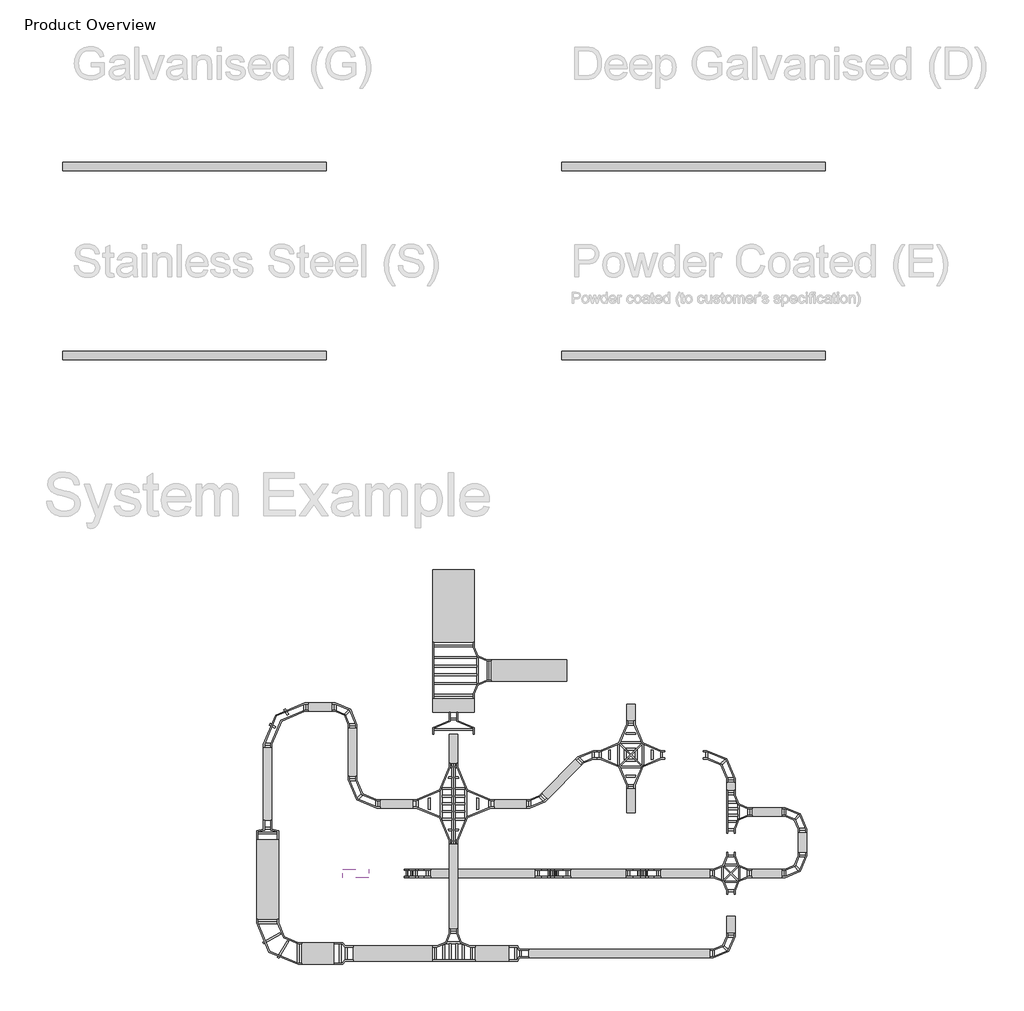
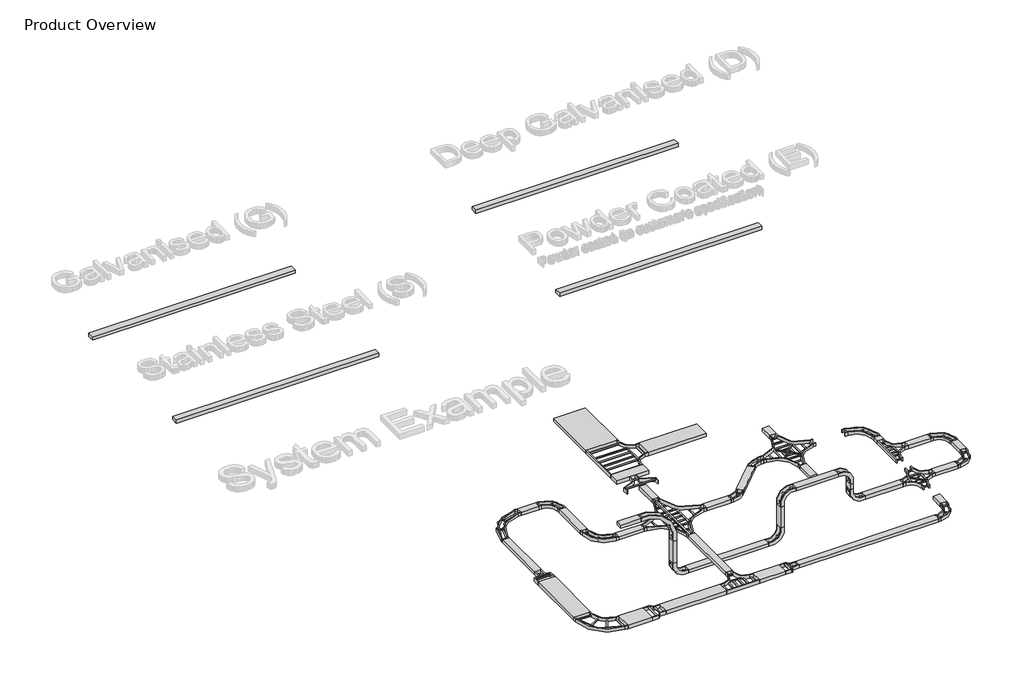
# One storey, part 1 of 12: 34 cable carrier segments, 26 cable carrier fittings.
"""IFC4 building model written with IfcOpenShell, lengths in millimetres."""

from ifc_helpers import new_model, si_unit, frame, origin, place, context, project, spatial, polyline, outline, extrude, transform, mapped, element, save
from components import cable_carrier_fitting_7f253313, cable_carrier_fitting_f78025db, cable_carrier_fitting_8960ecd3, cable_carrier_fitting_87adf0dc, cable_carrier_fitting_d395c870, cable_carrier_fitting_b2eab60c, cable_carrier_fitting_bc066015, cable_carrier_fitting_e394ca08, cable_carrier_fitting_f09c606a, cable_carrier_fitting_a2381116, cable_carrier_fitting_abfec594, cable_carrier_fitting_8f1683ba, cable_carrier_fitting_1cec5583, cable_carrier_fitting_96e0057e, cable_carrier_fitting_72d6f9a9, cable_carrier_fitting_0bd57088, cable_carrier_fitting_03ec1c38, cable_carrier_fitting_3448f65d

model = new_model("IFC4")

# Units and contexts
model_context = context("Model", 3, world=origin())
ifc_project = project(units=[si_unit("LENGTHUNIT", "METRE", prefix="MILLI")], contexts=[model_context])

# Site, building, storey
site = spatial("IfcSite", under=ifc_project)
building = spatial("IfcBuilding", under=site)
storey = spatial("IfcBuildingStorey", under=building, Name="Product Overview", Elevation=0.0)

# Cable carrier fittings
placement = place(None, origin())
cable_carrier_fitting_shape = cable_carrier_fitting_7f253313(model_context)
element("IfcCableCarrierFitting", 1, ObjectType="Legrand_CableLadder_Swifts_Topaz_Cross2Piece-750R-13 : Hot Dip Galvanised (after manufacture)", at=placement, inside=storey, context=model_context, shape_type="MappedRepresentation", body=[
    mapped(cable_carrier_fitting_shape, transform((-7597.3505224, -29354.8610525, 0.0), x_axis=(0.0, 1.0, 0.0), y_axis=(-1.0, 0.0, 0.0), z_axis=(0.0, 0.0, 1.0))),
])
cable_carrier_fitting_2_shape = cable_carrier_fitting_f78025db(model_context)
element("IfcCableCarrierFitting", 2, ObjectType="Legrand_CableLadder_Swifts_Topaz_Cross-300R-13 : Hot Dip Galvanised (after manufacture)", at=placement, inside=storey, context=model_context, shape_type="MappedRepresentation", body=[
    mapped(cable_carrier_fitting_2_shape, transform((-1280.5502597, -30939.3033827, 0.0), x_axis=(1.0, 0.0, 0.0), y_axis=(0.0, 1.0, 0.0), z_axis=(0.0, 0.0, 1.0))),
])
cable_carrier_fitting_3_shape = cable_carrier_fitting_8960ecd3(model_context)
element("IfcCableCarrierFitting", 3, ObjectType="Legrand_CableLadder_Swifts_Topaz_FlatBend-13 : Hot Dip Galvanised (after manufacture)", at=placement, inside=storey, context=model_context, shape_type="MappedRepresentation", body=[
    mapped(cable_carrier_fitting_3_shape, transform((-4580.5502597, -28240.2496609, 0.0), x_axis=(-1.0, 0.0, 0.0), y_axis=(0.0, -1.0, 0.0), z_axis=(0.0, 0.0, 1.0))),
])
element("IfcCableCarrierFitting", 4, ObjectType="Legrand_CableLadder_Swifts_Topaz_FlatBend-13 : Hot Dip Galvanised (after manufacture)", at=placement, inside=storey, context=model_context, shape_type="MappedRepresentation", body=[
    mapped(cable_carrier_fitting_3_shape, transform((-5695.1616513, -29354.8610525, 0.0), x_axis=(1.0, 0.0, 0.0), y_axis=(0.0, 1.0, 0.0), z_axis=(0.0, 0.0, 1.0))),
])
cable_carrier_fitting_4_shape = cable_carrier_fitting_87adf0dc(model_context)
element("IfcCableCarrierFitting", 5, ObjectType="Legrand_CableLadder_Swifts_Topaz_FlatBend-13 : Hot Dip Galvanised (after manufacture)", at=placement, inside=storey, context=model_context, shape_type="MappedRepresentation", body=[
    mapped(cable_carrier_fitting_4_shape, transform((-1280.5502597, -28240.2496609, 0.0), x_axis=(0.0, 1.0, 0.0), y_axis=(-1.0, 0.0, 0.0), z_axis=(0.0, 0.0, 1.0))),
])
element("IfcCableCarrierFitting", 6, ObjectType="Legrand_CableLadder_Swifts_Topaz_FlatBend-13 : Hot Dip Galvanised (after manufacture)", at=placement, inside=storey, context=model_context, shape_type="MappedRepresentation", body=[
    mapped(cable_carrier_fitting_4_shape, transform((-9895.1616513, -29354.8610525, 0.0), x_axis=(0.0, -1.0, 0.0), y_axis=(1.0, 0.0, 0.0), z_axis=(0.0, 0.0, 1.0))),
])
cable_carrier_fitting_5_shape = cable_carrier_fitting_d395c870(model_context)
element("IfcCableCarrierFitting", 7, ObjectType="Legrand_CableLadder_Swifts_Topaz_FlatBend-13 : Hot Dip Galvanised (after manufacture)", at=placement, inside=storey, context=model_context, shape_type="MappedRepresentation", body=[
    mapped(cable_carrier_fitting_5_shape, transform((350.9242707, -30939.3033827, 0.0), x_axis=(1.0, 0.0, 0.0), y_axis=(0.0, 1.0, 0.0), z_axis=(0.0, 0.0, 1.0))),
])
element("IfcCableCarrierFitting", 8, ObjectType="Legrand_CableLadder_Swifts_Topaz_FlatBend-13 : Hot Dip Galvanised (after manufacture)", at=placement, inside=storey, context=model_context, shape_type="MappedRepresentation", body=[
    mapped(cable_carrier_fitting_5_shape, transform((350.9242707, -29539.3033827, 0.0), x_axis=(0.0, 1.0, 0.0), y_axis=(-1.0, 0.0, 0.0), z_axis=(0.0, 0.0, 1.0))),
])
element("IfcCableCarrierFitting", 9, ObjectType="Legrand_CableLadder_Swifts_Topaz_FlatBend-13 : Hot Dip Galvanised (after manufacture)", at=placement, inside=storey, context=model_context, shape_type="MappedRepresentation", body=[
    mapped(cable_carrier_fitting_5_shape, transform((-9895.1616513, -27154.8610525, 0.0), x_axis=(0.0, 1.0, 0.0), y_axis=(-1.0, 0.0, 0.0), z_axis=(0.0, 0.0, 1.0))),
])
element("IfcCableCarrierFitting", 10, ObjectType="Legrand_CableLadder_Swifts_Topaz_FlatBend-13 : Hot Dip Galvanised (after manufacture)", at=placement, inside=storey, context=model_context, shape_type="MappedRepresentation", body=[
    mapped(cable_carrier_fitting_5_shape, transform((-1280.5502597, -32765.0889012, 0.0), x_axis=(1.0, 0.0, 0.0), y_axis=(0.0, 1.0, 0.0), z_axis=(0.0, 0.0, 1.0))),
])
cable_carrier_fitting_6_shape = cable_carrier_fitting_b2eab60c(model_context)
element("IfcCableCarrierFitting", 11, ObjectType="Legrand_CableLadder_Swifts_Topaz_FlatBend-13 : Hot Dip Galvanised (after manufacture)", at=placement, inside=storey, context=model_context, shape_type="MappedRepresentation", body=[
    mapped(cable_carrier_fitting_6_shape, transform((-11830.5502597, -27154.8610525, 0.0), x_axis=(-1.0, 0.0, 0.0), y_axis=(0.0, -1.0, 0.0), z_axis=(0.0, 0.0, 1.0))),
])
cable_carrier_fitting_7_shape = cable_carrier_fitting_bc066015(model_context)
element("IfcCableCarrierFitting", 12, ObjectType="Legrand_CableLadder_Swifts_Topaz_FlatBend-13 : Hot Dip Galvanised (after manufacture)", at=placement, inside=storey, context=model_context, shape_type="MappedRepresentation", body=[
    mapped(cable_carrier_fitting_7_shape, transform((-11830.5502597, -32765.0889012, 0.0), x_axis=(0.0, -1.0, 0.0), y_axis=(1.0, 0.0, 0.0), z_axis=(0.0, 0.0, 1.0))),
])
cable_carrier_fitting_8_shape = cable_carrier_fitting_e394ca08(model_context)
element("IfcCableCarrierFitting", 13, ObjectType="Legrand_CableLadder_Swifts_Topaz_InsideRiser-13 : Hot Dip Galvanised (after manufacture)", at=placement, inside=storey, context=model_context, shape_type="MappedRepresentation", body=[
    mapped(cable_carrier_fitting_8_shape, transform((-3278.0757293, -30939.3033827, 0.0), x_axis=(-1.0, 0.0, 0.0), y_axis=(0.0, 0.0, 1.0), z_axis=(0.0, 1.0, 0.0))),
])
element("IfcCableCarrierFitting", 14, ObjectType="Legrand_CableLadder_Swifts_Topaz_InsideRiser-13 : Hot Dip Galvanised (after manufacture)", at=placement, inside=storey, context=model_context, shape_type="MappedRepresentation", body=[
    mapped(cable_carrier_fitting_8_shape, transform((-5338.0757293, -30939.3033827, -480.0), x_axis=(0.0, 0.0, -1.0), y_axis=(-1.0, 0.0, 0.0), z_axis=(0.0, 1.0, 0.0))),
])
element("IfcCableCarrierFitting", 15, ObjectType="Legrand_CableLadder_Swifts_Topaz_InsideRiser-13 : Hot Dip Galvanised (after manufacture)", at=placement, inside=storey, context=model_context, shape_type="MappedRepresentation", body=[
    mapped(cable_carrier_fitting_8_shape, transform((-8523.5757293, -30939.3033827, -480.0), x_axis=(-1.0, 0.0, 0.0), y_axis=(0.0, 0.0, 1.0), z_axis=(0.0, 1.0, 0.0))),
])
cable_carrier_fitting_9_shape = cable_carrier_fitting_f09c606a(model_context)
element("IfcCableCarrierFitting", 16, ObjectType="Legrand_CableLadder_Swifts_Topaz_OutsideRiser-13 : Hot Dip Galvanised (after manufacture)", at=placement, inside=storey, context=model_context, shape_type="MappedRepresentation", body=[
    mapped(cable_carrier_fitting_9_shape, transform((-3278.0757293, -30939.3033827, 980.0), x_axis=(0.0, 0.0, 1.0), y_axis=(-1.0, 0.0, 0.0), z_axis=(0.0, -1.0, 0.0))),
])
element("IfcCableCarrierFitting", 17, ObjectType="Legrand_CableLadder_Swifts_Topaz_OutsideRiser-13 : Hot Dip Galvanised (after manufacture)", at=placement, inside=storey, context=model_context, shape_type="MappedRepresentation", body=[
    mapped(cable_carrier_fitting_9_shape, transform((-5338.0757293, -30939.3033827, 980.0), x_axis=(-1.0, 0.0, 0.0), y_axis=(0.0, 0.0, -1.0), z_axis=(0.0, -1.0, 0.0))),
])
cable_carrier_fitting_10_shape = cable_carrier_fitting_a2381116(model_context)
element("IfcCableCarrierFitting", 18, ObjectType="Legrand_CableLadder_Swifts_Topaz_Reducer-13 : Straight - Hot Dip Galvanised (after manufacture)", at=placement, inside=storey, context=model_context, shape_type="MappedRepresentation", body=[
    mapped(cable_carrier_fitting_10_shape, transform((-6112.6005224, -32765.0889012, 0.0), x_axis=(-1.0, 0.0, 0.0), y_axis=(0.0, 1.0, 0.0), z_axis=(0.0, 0.0, -1.0))),
])
cable_carrier_fitting_11_shape = cable_carrier_fitting_abfec594(model_context)
element("IfcCableCarrierFitting", 19, ObjectType="Legrand_CableLadder_Swifts_Topaz_Reducer-13 : Straight - Hot Dip Galvanised (after manufacture)", at=placement, inside=storey, context=model_context, shape_type="MappedRepresentation", body=[
    mapped(cable_carrier_fitting_11_shape, transform((-10105.5502597, -32765.0889012, 0.0), x_axis=(-1.0, 0.0, 0.0), y_axis=(0.0, 1.0, 0.0), z_axis=(0.0, 0.0, -1.0))),
])
cable_carrier_fitting_12_shape = cable_carrier_fitting_8f1683ba(model_context)
element("IfcCableCarrierFitting", 20, ObjectType="Legrand_CableLadder_Swifts_Topaz_Reducer-13 : Straight - Hot Dip Galvanised (after manufacture)", at=placement, inside=storey, context=model_context, shape_type="MappedRepresentation", body=[
    mapped(cable_carrier_fitting_12_shape, transform((-11830.5502597, -29950.8503409, 0.0), x_axis=(0.0, -1.0, 0.0), y_axis=(-1.0, 0.0, 0.0), z_axis=(0.0, 0.0, -1.0))),
])
cable_carrier_fitting_13_shape = cable_carrier_fitting_1cec5583(model_context)
element("IfcCableCarrierFitting", 21, ObjectType="Legrand_CableLadder_Swifts_Topaz_Tee-300R-13 : Hot Dip Galvanised (after manufacture)", at=placement, inside=storey, context=model_context, shape_type="MappedRepresentation", body=[
    mapped(cable_carrier_fitting_13_shape, transform((-7597.3505224, -26319.2387618, 0.0), x_axis=(0.0, 1.0, 0.0), y_axis=(-1.0, 0.0, 0.0), z_axis=(0.0, 0.0, 1.0))),
])
cable_carrier_fitting_14_shape = cable_carrier_fitting_96e0057e(model_context)
element("IfcCableCarrierFitting", 22, ObjectType="Legrand_CableLadder_Swifts_Topaz_Tee-300R-13 : Hot Dip Galvanised (after manufacture)", at=placement, inside=storey, context=model_context, shape_type="MappedRepresentation", body=[
    mapped(cable_carrier_fitting_14_shape, transform((-7597.3505224, -32765.0889012, 0.0), x_axis=(-1.0, 0.0, 0.0), y_axis=(0.0, -1.0, 0.0), z_axis=(0.0, 0.0, 1.0))),
])
cable_carrier_fitting_15_shape = cable_carrier_fitting_72d6f9a9(model_context)
element("IfcCableCarrierFitting", 23, ObjectType="Legrand_CableLadder_Swifts_Topaz_OutsideRiser-13 : Hot Dip Galvanised (after manufacture)", at=placement, inside=storey, context=model_context, shape_type="MappedRepresentation", body=[
    mapped(cable_carrier_fitting_15_shape, transform((-8523.5757293, -30939.3033827, 1620.0), x_axis=(0.0, 0.0, 1.0), y_axis=(-1.0, 0.0, 0.0), z_axis=(0.0, -1.0, 0.0))),
])
cable_carrier_fitting_16_shape = cable_carrier_fitting_0bd57088(model_context)
element("IfcCableCarrierFitting", 24, ObjectType="Legrand_CableLadder_Swifts_Topaz_Tee-300R-13 : Hot Dip Galvanised (after manufacture)", at=placement, inside=storey, context=model_context, shape_type="MappedRepresentation", body=[
    mapped(cable_carrier_fitting_16_shape, transform((-1280.5502597, -29539.3033827, 0.0), x_axis=(0.0, 1.0, 0.0), y_axis=(-1.0, 0.0, 0.0), z_axis=(0.0, 0.0, 1.0))),
])
cable_carrier_fitting_17_shape = cable_carrier_fitting_03ec1c38(model_context)
element("IfcCableCarrierFitting", 25, ObjectType="Legrand_CableLadder_Swifts_Topaz_Cross-600R-13 : Hot Dip Galvanised (after manufacture)", at=placement, inside=storey, context=model_context, shape_type="MappedRepresentation", body=[
    mapped(cable_carrier_fitting_17_shape, transform((-3559.1074754, -28240.2496609, 0.0), x_axis=(0.0, 1.0, 0.0), y_axis=(-1.0, 0.0, 0.0), z_axis=(0.0, 0.0, 1.0))),
])
cable_carrier_fitting_18_shape = cable_carrier_fitting_3448f65d(model_context)
element("IfcCableCarrierFitting", 26, ObjectType="Legrand_CableLadder_Swifts_Topaz_Reducer-13 : Straight - Hot Dip Galvanised (after manufacture)", at=placement, inside=storey, context=model_context, shape_type="MappedRepresentation", body=[
    mapped(cable_carrier_fitting_18_shape, transform((-7597.3505224, -27519.2387618, 0.0), x_axis=(0.0, 1.0, 0.0), y_axis=(1.0, 0.0, 0.0), z_axis=(0.0, 0.0, -1.0))),
])

# Cable carrier segments
element("IfcCableCarrierSegment", 27, ObjectType="Swifts Cable Ladder - Topaz - Hot Dip Galvanised (after manufacture)", at=placement, inside=storey, context=model_context, shape_type="SweptSolid", body=[
    extrude(outline(polyline([(-16496.1994897, -14941.5700717), (-16496.1994897, -14747.5700717), (-10496.1994897, -14747.5700717), (-10496.1994897, -14941.5700717), (-16496.1994897, -14941.5700717)])), frame((0.0, 0.0, -50.0), z_axis=(0.0, 0.0, 1.0), x_axis=(1.0, 0.0, 0.0)), (0.0, 0.0, 1.0), 100.0),
])
element("IfcCableCarrierSegment", 28, ObjectType="Swifts Cable Ladder - Topaz - Stainless Steel", at=placement, inside=storey, context=model_context, shape_type="SweptSolid", body=[
    extrude(outline(polyline([(-16496.1994897, -19241.5700717), (-16496.1994897, -19047.5700717), (-10496.1994897, -19047.5700717), (-10496.1994897, -19241.5700717), (-16496.1994897, -19241.5700717)])), frame((0.0, 0.0, -50.0), z_axis=(0.0, 0.0, 1.0), x_axis=(1.0, 0.0, 0.0)), (0.0, 0.0, 1.0), 100.0),
])
element("IfcCableCarrierSegment", 29, ObjectType="Swifts Cable Ladder - Topaz - Deep Galvanized", at=placement, inside=storey, context=model_context, shape_type="SweptSolid", body=[
    extrude(outline(polyline([(-5136.1994897, -14941.5700717), (-5136.1994897, -14747.5700717), (863.8005103, -14747.5700717), (863.8005103, -14941.5700717), (-5136.1994897, -14941.5700717)])), frame((0.0, 0.0, -50.0), z_axis=(0.0, 0.0, 1.0), x_axis=(1.0, 0.0, 0.0)), (0.0, 0.0, 1.0), 100.0),
])
element("IfcCableCarrierSegment", 30, ObjectType="Swifts Cable Ladder - Topaz - Powder Coated", at=placement, inside=storey, context=model_context, shape_type="SweptSolid", body=[
    extrude(outline(polyline([(-5136.1994897, -19241.5700717), (-5136.1994897, -19047.5700717), (863.8005103, -19047.5700717), (863.8005103, -19241.5700717), (-5136.1994897, -19241.5700717)])), frame((0.0, 0.0, -50.0), z_axis=(0.0, 0.0, 1.0), x_axis=(1.0, 0.0, 0.0)), (0.0, 0.0, 1.0), 100.0),
])
element("IfcCableCarrierSegment", 31, ObjectType="Swifts Cable Ladder - Topaz - Hot Dip Galvanised (after manufacture)", at=placement, inside=storey, context=model_context, shape_type="SweptSolid", body=[
    extrude(outline(polyline([(-9992.1616513, -27631.8610525), (-9798.1616513, -27631.8610525), (-9798.1616513, -28727.8610525), (-9992.1616513, -28727.8610525), (-9992.1616513, -27631.8610525)])), frame((0.0, 0.0, -50.0), z_axis=(0.0, 0.0, 1.0), x_axis=(1.0, 0.0, 0.0)), (0.0, 0.0, 1.0), 100.0),
])
element("IfcCableCarrierSegment", 32, ObjectType="Swifts Cable Ladder - Topaz - Hot Dip Galvanised (after manufacture)", at=placement, inside=storey, context=model_context, shape_type="SweptSolid", body=[
    extrude(outline(polyline([(-5453.7251432, -29250.6032599), (-5590.9038587, -29113.4245444), (-4821.9867678, -28344.5074535), (-4684.8080522, -28481.686169), (-5453.7251432, -29250.6032599)])), frame((0.0, 0.0, -50.0), z_axis=(0.0, 0.0, 1.0), x_axis=(1.0, 0.0, 0.0)), (0.0, 0.0, 1.0), 100.0),
])
element("IfcCableCarrierSegment", 33, ObjectType="Swifts Cable Ladder - Topaz - Hot Dip Galvanised (after manufacture)", at=placement, inside=storey, context=model_context, shape_type="SweptSolid", body=[
    extrude(outline(polyline([(-803.5502597, -31036.3033827), (-803.5502597, -30842.3033827), (-126.0757293, -30842.3033827), (-126.0757293, -31036.3033827), (-803.5502597, -31036.3033827)])), frame((0.0, 0.0, -50.0), z_axis=(0.0, 0.0, 1.0), x_axis=(1.0, 0.0, 0.0)), (0.0, 0.0, 1.0), 100.0),
])
element("IfcCableCarrierSegment", 34, ObjectType="Swifts Cable Ladder - Topaz - Hot Dip Galvanised (after manufacture)", at=placement, inside=storey, context=model_context, shape_type="SweptSolid", body=[
    extrude(outline(polyline([(-2872.5757293, -31036.3033827), (-2872.5757293, -30842.3033827), (-1757.5502597, -30842.3033827), (-1757.5502597, -31036.3033827), (-2872.5757293, -31036.3033827)])), frame((0.0, 0.0, -50.0), z_axis=(0.0, 0.0, 1.0), x_axis=(1.0, 0.0, 0.0)), (0.0, 0.0, 1.0), 100.0),
])
element("IfcCableCarrierSegment", 35, ObjectType="Swifts Cable Ladder - Topaz - Hot Dip Galvanised (after manufacture)", at=placement, inside=storey, context=model_context, shape_type="SweptSolid", body=[
    extrude(outline(polyline([(447.9242707, -30462.3033827), (253.9242707, -30462.3033827), (253.9242707, -30016.3033827), (447.9242707, -30016.3033827), (447.9242707, -30462.3033827)])), frame((0.0, 0.0, -50.0), z_axis=(0.0, 0.0, 1.0), x_axis=(1.0, 0.0, 0.0)), (0.0, 0.0, 1.0), 100.0),
])
element("IfcCableCarrierSegment", 36, ObjectType="Swifts Cable Ladder - Topaz - Hot Dip Galvanised (after manufacture)", at=placement, inside=storey, context=model_context, shape_type="SweptSolid", body=[
    extrude(outline(polyline([(-790.8002597, -29636.3033827), (-790.8002597, -29442.3033827), (-126.0757293, -29442.3033827), (-126.0757293, -29636.3033827), (-790.8002597, -29636.3033827)])), frame((0.0, 0.0, -50.0), z_axis=(0.0, 0.0, 1.0), x_axis=(1.0, 0.0, 0.0)), (0.0, 0.0, 1.0), 100.0),
])
element("IfcCableCarrierSegment", 37, ObjectType="Swifts Cable Ladder - Topaz - Hot Dip Galvanised (after manufacture)", at=placement, inside=storey, context=model_context, shape_type="SweptSolid", body=[
    extrude(outline(polyline([(-1377.5502597, -28867.2496609), (-1183.5502597, -28867.2496609), (-1183.5502597, -29049.5533827), (-1377.5502597, -29049.5533827), (-1377.5502597, -28867.2496609)])), frame((0.0, 0.0, -50.0), z_axis=(0.0, 0.0, 1.0), x_axis=(1.0, 0.0, 0.0)), (0.0, 0.0, 1.0), 100.0),
])
element("IfcCableCarrierSegment", 38, ObjectType="Swifts Cable Ladder - Topaz - Hot Dip Galvanised (after manufacture)", at=placement, inside=storey, context=model_context, shape_type="SweptSolid", body=[
    extrude(outline(polyline([(-3328.0757293, -30842.3033827), (-3228.0757293, -30842.3033827), (-3228.0757293, -31036.3033827), (-3328.0757293, -31036.3033827), (-3328.0757293, -30842.3033827)])), frame((0.0, 0.0, 405.5), z_axis=(0.0, 0.0, 1.0), x_axis=(1.0, 0.0, 0.0)), (0.0, 0.0, 1.0), 169.0),
])
element("IfcCableCarrierSegment", 39, ObjectType="Swifts Cable Ladder - Topaz - Hot Dip Galvanised (after manufacture)", at=placement, inside=storey, context=model_context, shape_type="SweptSolid", body=[
    extrude(outline(polyline([(-3679.7757293, -30842.3033827), (-3679.7757293, -31036.3033827), (-4932.5757293, -31036.3033827), (-4932.5757293, -30842.3033827), (-3679.7757293, -30842.3033827)])), frame((0.0, 0.0, 930.0), z_axis=(0.0, 0.0, 1.0), x_axis=(1.0, 0.0, 0.0)), (0.0, 0.0, 1.0), 100.0),
])
element("IfcCableCarrierSegment", 40, ObjectType="Swifts Cable Ladder - Topaz - Hot Dip Galvanised (after manufacture)", at=placement, inside=storey, context=model_context, shape_type="SweptSolid", body=[
    extrude(outline(polyline([(-5288.0757293, -30842.3033827), (-5288.0757293, -31036.3033827), (-5388.0757293, -31036.3033827), (-5388.0757293, -30842.3033827), (-5288.0757293, -30842.3033827)])), frame((0.0, 0.0, -74.5), z_axis=(0.0, 0.0, 1.0), x_axis=(1.0, 0.0, 0.0)), (0.0, 0.0, 1.0), 652.8),
])
element("IfcCableCarrierSegment", 41, ObjectType="Swifts Cable Ladder - Topaz - Hot Dip Galvanised (after manufacture)", at=placement, inside=storey, context=model_context, shape_type="SweptSolid", body=[
    extrude(outline(polyline([(-3656.1074754, -29017.2496609), (-3462.1074754, -29017.2496609), (-3462.1074754, -29564.6473636), (-3656.1074754, -29564.6473636), (-3656.1074754, -29017.2496609)])), frame((0.0, 0.0, -50.0), z_axis=(0.0, 0.0, 1.0), x_axis=(1.0, 0.0, 0.0)), (0.0, 0.0, 1.0), 100.0),
])
element("IfcCableCarrierSegment", 42, ObjectType="Swifts Cable Ladder - Topaz - Hot Dip Galvanised (after manufacture)", at=placement, inside=storey, context=model_context, shape_type="SweptSolid", body=[
    extrude(outline(polyline([(-3656.1074754, -27084.6473636), (-3462.1074754, -27084.6473636), (-3462.1074754, -27463.2496609), (-3656.1074754, -27463.2496609), (-3656.1074754, -27084.6473636)])), frame((0.0, 0.0, -50.0), z_axis=(0.0, 0.0, 1.0), x_axis=(1.0, 0.0, 0.0)), (0.0, 0.0, 1.0), 100.0),
])
element("IfcCableCarrierSegment", 43, ObjectType="Swifts Cable Ladder - Topaz - Hot Dip Galvanised (after manufacture)", at=placement, inside=storey, context=model_context, shape_type="SweptSolid", body=[
    extrude(outline(polyline([(-6670.3505224, -29451.8610525), (-6670.3505224, -29257.8610525), (-5939.6044356, -29257.8610525), (-5939.6044356, -29451.8610525), (-6670.3505224, -29451.8610525)])), frame((0.0, 0.0, -50.0), z_axis=(0.0, 0.0, 1.0), x_axis=(1.0, 0.0, 0.0)), (0.0, 0.0, 1.0), 100.0),
])
element("IfcCableCarrierSegment", 44, ObjectType="Swifts Cable Ladder - Topaz - Hot Dip Galvanised (after manufacture)", at=placement, inside=storey, context=model_context, shape_type="SweptSolid", body=[
    extrude(outline(polyline([(-7107.6005224, -32937.0889012), (-7107.6005224, -32593.0889012), (-6337.6005224, -32593.0889012), (-6337.6005224, -32937.0889012), (-7107.6005224, -32937.0889012)])), frame((0.0, 0.0, -50.0), z_axis=(0.0, 0.0, 1.0), x_axis=(1.0, 0.0, 0.0)), (0.0, 0.0, 1.0), 100.0),
])
element("IfcCableCarrierSegment", 45, ObjectType="Swifts Cable Ladder - Topaz - Hot Dip Galvanised (after manufacture)", at=placement, inside=storey, context=model_context, shape_type="SweptSolid", body=[
    extrude(outline(polyline([(-11053.5502597, -33012.0889012), (-11053.5502597, -32518.0889012), (-10330.5502597, -32518.0889012), (-10330.5502597, -33012.0889012), (-11053.5502597, -33012.0889012)])), frame((0.0, 0.0, -50.0), z_axis=(0.0, 0.0, 1.0), x_axis=(1.0, 0.0, 0.0)), (0.0, 0.0, 1.0), 100.0),
])
element("IfcCableCarrierSegment", 46, ObjectType="Swifts Cable Ladder - Topaz - Hot Dip Galvanised (after manufacture)", at=placement, inside=storey, context=model_context, shape_type="SweptSolid", body=[
    extrude(outline(polyline([(-11583.5502597, -31988.0889012), (-12077.5502597, -31988.0889012), (-12077.5502597, -30175.8503409), (-11583.5502597, -30175.8503409), (-11583.5502597, -31988.0889012)])), frame((0.0, 0.0, -50.0), z_axis=(0.0, 0.0, 1.0), x_axis=(1.0, 0.0, 0.0)), (0.0, 0.0, 1.0), 100.0),
])
element("IfcCableCarrierSegment", 47, ObjectType="Swifts Cable Ladder - Topaz - Hot Dip Galvanised (after manufacture)", at=placement, inside=storey, context=model_context, shape_type="SweptSolid", body=[
    extrude(outline(polyline([(-7125.3505224, -25679.4887618), (-8069.3505224, -25679.4887618), (-8069.3505224, -24019.4887618), (-7125.3505224, -24019.4887618), (-7125.3505224, -25679.4887618)])), frame((0.0, 0.0, -50.0), z_axis=(0.0, 0.0, 1.0), x_axis=(1.0, 0.0, 0.0)), (0.0, 0.0, 1.0), 100.0),
])
element("IfcCableCarrierSegment", 48, ObjectType="Swifts Cable Ladder - Topaz - Hot Dip Galvanised (after manufacture)", at=placement, inside=storey, context=model_context, shape_type="SweptSolid", body=[
    extrude(outline(polyline([(-7694.3505224, -30281.8610525), (-7500.3505224, -30281.8610525), (-7500.3505224, -32200.3389012), (-7694.3505224, -32200.3389012), (-7694.3505224, -30281.8610525)])), frame((0.0, 0.0, -50.0), z_axis=(0.0, 0.0, 1.0), x_axis=(1.0, 0.0, 0.0)), (0.0, 0.0, 1.0), 100.0),
])
element("IfcCableCarrierSegment", 49, ObjectType="Swifts Cable Ladder - Topaz - Hot Dip Galvanised (after manufacture)", at=placement, inside=storey, context=model_context, shape_type="SweptSolid", body=[
    extrude(outline(polyline([(-7694.3505224, -27769.2387618), (-7500.3505224, -27769.2387618), (-7500.3505224, -28427.8610525), (-7694.3505224, -28427.8610525), (-7694.3505224, -27769.2387618)])), frame((0.0, 0.0, -50.0), z_axis=(0.0, 0.0, 1.0), x_axis=(1.0, 0.0, 0.0)), (0.0, 0.0, 1.0), 100.0),
])
element("IfcCableCarrierSegment", 50, ObjectType="Swifts Cable Ladder - Topaz - Hot Dip Galvanised (after manufacture)", at=placement, inside=storey, context=model_context, shape_type="SweptSolid", body=[
    extrude(outline(polyline([(-9268.1616513, -29451.8610525), (-9268.1616513, -29257.8610525), (-8524.3505224, -29257.8610525), (-8524.3505224, -29451.8610525), (-9268.1616513, -29451.8610525)])), frame((0.0, 0.0, -50.0), z_axis=(0.0, 0.0, 1.0), x_axis=(1.0, 0.0, 0.0)), (0.0, 0.0, 1.0), 100.0),
])
element("IfcCableCarrierSegment", 51, ObjectType="Swifts Cable Ladder - Topaz - Hot Dip Galvanised (after manufacture)", at=placement, inside=storey, context=model_context, shape_type="SweptSolid", body=[
    extrude(outline(polyline([(-6732.6005224, -26566.2387618), (-6732.6005224, -26072.2387618), (-5016.1994897, -26072.2387618), (-5016.1994897, -26566.2387618), (-6732.6005224, -26566.2387618)])), frame((0.0, 0.0, -50.0), z_axis=(0.0, 0.0, 1.0), x_axis=(1.0, 0.0, 0.0)), (0.0, 0.0, 1.0), 100.0),
])
element("IfcCableCarrierSegment", 52, ObjectType="Swifts Cable Ladder - Topaz - Hot Dip Galvanised (after manufacture)", at=placement, inside=storey, context=model_context, shape_type="SweptSolid", body=[
    extrude(outline(polyline([(-7125.3505224, -27269.2387618), (-8069.3505224, -27269.2387618), (-8069.3505224, -26958.9887618), (-7125.3505224, -26958.9887618), (-7125.3505224, -27269.2387618)])), frame((0.0, 0.0, -50.0), z_axis=(0.0, 0.0, 1.0), x_axis=(1.0, 0.0, 0.0)), (0.0, 0.0, 1.0), 100.0),
])
element("IfcCableCarrierSegment", 53, ObjectType="Swifts Cable Ladder - Topaz - Hot Dip Galvanised (after manufacture)", at=placement, inside=storey, context=model_context, shape_type="SweptSolid", body=[
    extrude(outline(polyline([(-9880.5502597, -32937.0889012), (-9880.5502597, -32593.0889012), (-8087.1005224, -32593.0889012), (-8087.1005224, -32937.0889012), (-9880.5502597, -32937.0889012)])), frame((0.0, 0.0, -50.0), z_axis=(0.0, 0.0, 1.0), x_axis=(1.0, 0.0, 0.0)), (0.0, 0.0, 1.0), 100.0),
])
element("IfcCableCarrierSegment", 54, ObjectType="Swifts Cable Ladder - Topaz - Hot Dip Galvanised (after manufacture)", at=placement, inside=storey, context=model_context, shape_type="SweptSolid", body=[
    extrude(outline(polyline([(-5887.6005224, -32862.0889012), (-5887.6005224, -32668.0889012), (-1757.5502597, -32668.0889012), (-1757.5502597, -32862.0889012), (-5887.6005224, -32862.0889012)])), frame((0.0, 0.0, -50.0), z_axis=(0.0, 0.0, 1.0), x_axis=(1.0, 0.0, 0.0)), (0.0, 0.0, 1.0), 100.0),
])
element("IfcCableCarrierSegment", 55, ObjectType="Swifts Cable Ladder - Topaz - Hot Dip Galvanised (after manufacture)", at=placement, inside=storey, context=model_context, shape_type="SweptSolid", body=[
    extrude(outline(polyline([(-1183.5502597, -32288.0889012), (-1377.5502597, -32288.0889012), (-1377.5502597, -31916.3033827), (-1183.5502597, -31916.3033827), (-1183.5502597, -32288.0889012)])), frame((0.0, 0.0, -50.0), z_axis=(0.0, 0.0, 1.0), x_axis=(1.0, 0.0, 0.0)), (0.0, 0.0, 1.0), 100.0),
])
element("IfcCableCarrierSegment", 56, ObjectType="Swifts Cable Ladder - Topaz - Hot Dip Galvanised (after manufacture)", at=placement, inside=storey, context=model_context, shape_type="SweptSolid", body=[
    extrude(outline(polyline([(-11733.5502597, -29725.8503409), (-11927.5502597, -29725.8503409), (-11927.5502597, -28081.8610525), (-11733.5502597, -28081.8610525), (-11733.5502597, -29725.8503409)])), frame((0.0, 0.0, -50.0), z_axis=(0.0, 0.0, 1.0), x_axis=(1.0, 0.0, 0.0)), (0.0, 0.0, 1.0), 100.0),
])
element("IfcCableCarrierSegment", 57, ObjectType="Swifts Cable Ladder - Topaz - Hot Dip Galvanised (after manufacture)", at=placement, inside=storey, context=model_context, shape_type="SweptSolid", body=[
    extrude(outline(polyline([(-10903.5502597, -27251.8610525), (-10903.5502597, -27057.8610525), (-10372.1616513, -27057.8610525), (-10372.1616513, -27251.8610525), (-10903.5502597, -27251.8610525)])), frame((0.0, 0.0, -50.0), z_axis=(0.0, 0.0, 1.0), x_axis=(1.0, 0.0, 0.0)), (0.0, 0.0, 1.0), 100.0),
])
element("IfcCableCarrierSegment", 58, ObjectType="Swifts Cable Ladder - Topaz - Hot Dip Galvanised (after manufacture)", at=placement, inside=storey, context=model_context, shape_type="SweptSolid", body=[
    extrude(outline(polyline([(-5743.5757293, -30842.3033827), (-5743.5757293, -31036.3033827), (-8118.0757293, -31036.3033827), (-8118.0757293, -30842.3033827), (-5743.5757293, -30842.3033827)])), frame((0.0, 0.0, -530.0), z_axis=(0.0, 0.0, 1.0), x_axis=(1.0, 0.0, 0.0)), (0.0, 0.0, 1.0), 100.0),
])
element("IfcCableCarrierSegment", 59, ObjectType="Swifts Cable Ladder - Topaz - Hot Dip Galvanised (after manufacture)", at=placement, inside=storey, context=model_context, shape_type="SweptSolid", body=[
    extrude(outline(polyline([(-8573.5757293, -30842.3033827), (-8473.5757293, -30842.3033827), (-8473.5757293, -31036.3033827), (-8573.5757293, -31036.3033827), (-8573.5757293, -30842.3033827)])), frame((0.0, 0.0, -74.5), z_axis=(0.0, 0.0, 1.0), x_axis=(1.0, 0.0, 0.0)), (0.0, 0.0, 1.0), 689.0),
])
element("IfcCableCarrierSegment", 60, ObjectType="Swifts Cable Ladder - Topaz - Hot Dip Galvanised (after manufacture)", at=placement, inside=storey, context=model_context, shape_type="SweptSolid", body=[
    extrude(outline(polyline([(-9525.2757293, -30842.3033827), (-9525.2757293, -31036.3033827), (-10123.5757293, -31036.3033827), (-10123.5757293, -30842.3033827), (-9525.2757293, -30842.3033827)])), frame((0.0, 0.0, 1570.0), z_axis=(0.0, 0.0, 1.0), x_axis=(1.0, 0.0, 0.0)), (0.0, 0.0, 1.0), 100.0),
])

save(model, "model.ifc")
